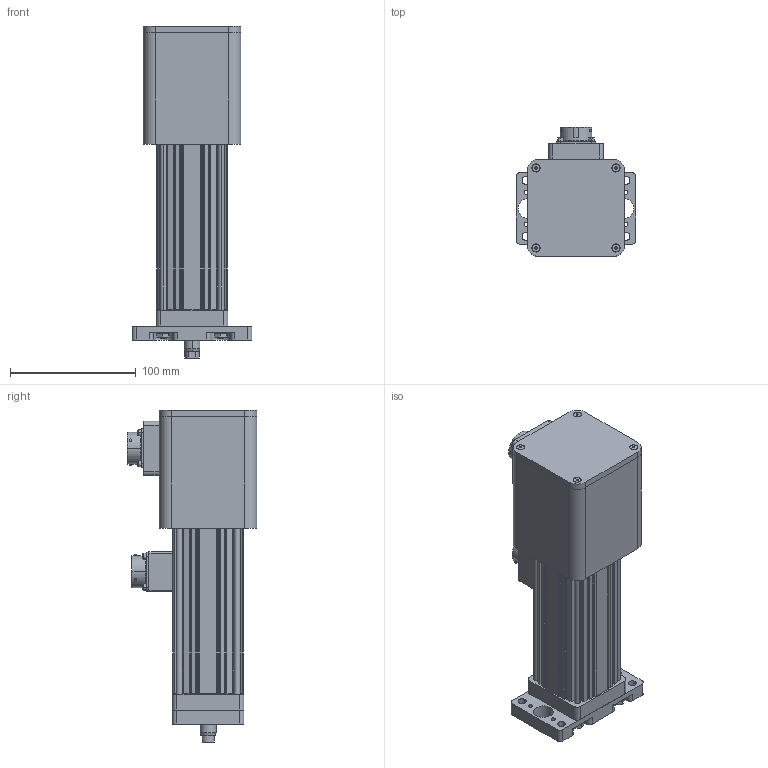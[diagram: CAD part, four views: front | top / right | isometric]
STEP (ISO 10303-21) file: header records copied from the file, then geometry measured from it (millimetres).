
FILE_DESCRIPTION (( 'STEP AP203' ), '1' );
FILE_NAME ('GSM20-3 inch Front Flange Mount, Std Conn, B Rod, Heidenhain.step', '2008-05-29T11:26:51', ( 'SaharaKiran' ), ( 'I2T2' ), 'SwSTEP 2.0', 'SolidWorks 2008', '' );
FILE_SCHEMA (( 'CONFIG_CONTROL_DESIGN' ));
Length unit declared in the file: inch
Products named in the file (19): GSM20-3 inch Front Flange Mount, Std Conn, B Rod, Heidenhain; FRONT FLANGE_20831; TieRod_13050-3"; CASE_31193-3 inch; 19738; MAIN ROD_B-MAIN ROD-3 inch; CYLINDER_31367-3 inch; 12692; 18391; END CAP-HEIDENHAIN_FRONT FLANGE-33926-STD; END CAP-HEIDENHAIN_33926; 13595; 32576; 31482; 31527_90585A200; 10221; 12367; 12710; 12709
Assembly tree (38 placements, depth 3):
  GSM20-3 inch Front Flange Mount, Std Conn, B Rod, Heidenhain
    12367  x4
    12709  x4
    12710  x4
    12692  x2
    TieRod_13050-3"  x4
    END CAP-HEIDENHAIN_FRONT FLANGE-33926-STD
      12367  x4
      31527_90585A200  x4
      32576
      END CAP-HEIDENHAIN_33926
      13595
    CASE_31193-3 inch
    18391
    FRONT FLANGE_20831
    19738
    MAIN ROD_B-MAIN ROD-3 inch
    31482
    CYLINDER_31367-3 inch
    10221
Bounding box: 95.25 x 102.82 x 263.53 mm (x, y, z)
Volume: 581282.2 mm3; surface area: 235775.2 mm2
Topology: 37 solids, 37 shells, 1801 faces, 4159 edges, 2544 vertices
Faces by surface type: cylinder 850, plane 497, cone 334, torus 74, sphere 46
Entity records: 41364 total; most frequent: CARTESIAN_POINT 7854, DIRECTION 7126, ORIENTED_EDGE 5918, EDGE_CURVE 2959, AXIS2_PLACEMENT_3D 2939, VERTEX_POINT 1891, EDGE_LOOP 1618, CIRCLE 1592
